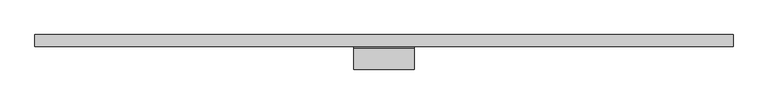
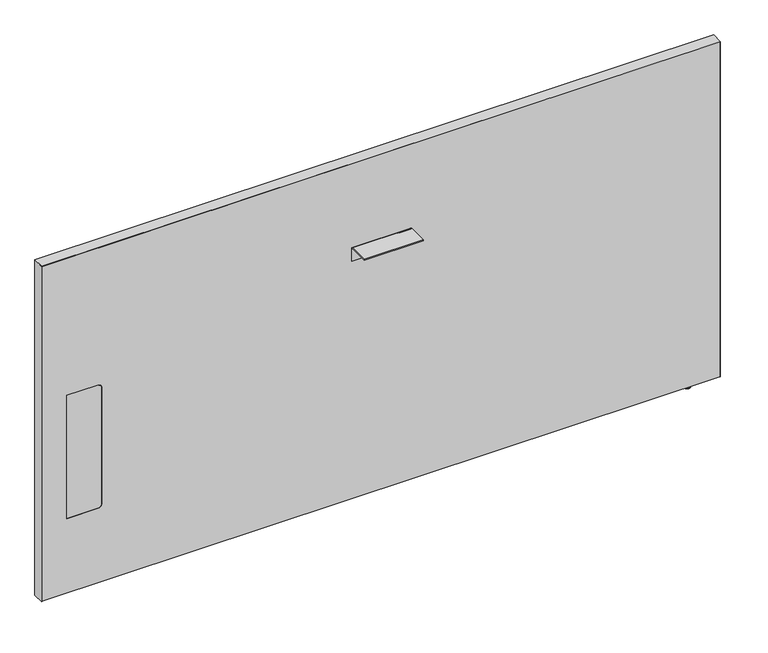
"""IFC4 building model written with IfcOpenShell, lengths in millimetres: furniture geometry, Steelcase - Answer Solution - Boundary Screen - Straight - Single Sided : 36H x 69W."""

from ifc_helpers import new_model, si_unit, point, frame, frame_2d, origin, place, context, project, spatial, polyline, circle_curve, ellipse_curve, trimmed, segment, composite_curve, outline, extrude, source, transform, mapped, element, save
from ifc_brep_helpers import plane_surface, cylinder_surface, revolved_surface, advanced_brep


def furniture_04f0128f(model_context):
    return source(origin(), model_context, "Body", "SolidModel", [
        extrude(outline(composite_curve([segment(polyline([(-86.8398151, 696.4680019), (-86.8398151, 698.5), (-34.9450855, 698.5)]), True, "CONTINUOUS"), segment(trimmed(circle_curve(frame_2d((-34.9450855, 693.2447477)), 5.2552523), [point((-34.9450855, 698.5))], [point((-29.6898332, 693.2447477))], False, "CARTESIAN"), True, "CONTINUOUS"), segment(polyline([(-29.6898332, 693.2447477), (-29.6898332, 660.4), (-31.7218162, 660.4), (-31.7218162, 693.0058743)]), True, "CONTINUOUS"), segment(trimmed(circle_curve(frame_2d((-35.1839438, 693.0058743)), 3.4621276), [point((-31.7218162, 693.0058743))], [point((-35.1839438, 696.4680019))], True, "CARTESIAN"), True, "CONTINUOUS"), segment(polyline([(-35.1839438, 696.4680019), (-86.8398151, 696.4680019)]), True, "CONTINUOUS")], self_intersect=False)), frame((153.6191407, 0.0, 0.0), z_axis=(1.0, 0.0, 0.0), x_axis=(0.0, 1.0, 0.0)), (0.0, 0.0, 1.0), 152.4000969),
        advanced_brep(
        [(1028.9286488, -23.7588726, 9.9059849), (1028.9286488, -5.9309607, 9.9059849), (1028.9286488, -14.8449166, 9.9059849), (1028.9286488, -23.7588726, 2.9673238), (1028.9286488, -5.9309607, 2.9673238), (1028.9286488, -22.7915354, 2.9673238), (1028.9286488, -6.8982978, 2.9673238), (1028.9286488, -22.7915354, 1.6569081), (1028.9286488, -6.8982978, 1.6569081), (1028.9286488, -21.1346274, 0.0), (1028.9286488, -8.5552059, 0.0), (1028.9286488, -14.8449166, 0.0)],
        [
            (0, 1, circle_curve(frame((1028.9286488, -14.8449166, 9.9059849), z_axis=(0.0, 0.0, 1.0), x_axis=(0.0, 1.0, 0.0)), 8.913956)),
            (1, 2),
            (2, 0),
            (1, 0, circle_curve(frame((1028.9286488, -14.8449166, 9.9059849), z_axis=(0.0, 0.0, 1.0), x_axis=(0.0, 1.0, 0.0)), 8.913956)),
            (3, 4, circle_curve(frame((1028.9286488, -14.8449166, 2.9673238), z_axis=(0.0, 0.0, 1.0), x_axis=(0.0, 1.0, 0.0)), 8.913956)),
            (4, 1),
            (0, 3),
            (4, 3, circle_curve(frame((1028.9286488, -14.8449166, 2.9673238), z_axis=(0.0, 0.0, 1.0), x_axis=(0.0, 1.0, 0.0)), 8.913956)),
            (5, 6, circle_curve(frame((1028.9286488, -14.8449166, 2.9673238), z_axis=(0.0, 0.0, 1.0), x_axis=(0.0, 1.0, 0.0)), 7.9466188)),
            (6, 4),
            (3, 5),
            (6, 5, circle_curve(frame((1028.9286488, -14.8449166, 2.9673238), z_axis=(0.0, 0.0, 1.0), x_axis=(0.0, 1.0, 0.0)), 7.9466188)),
            (7, 8, circle_curve(frame((1028.9286488, -14.8449166, 1.6569081), z_axis=(0.0, 0.0, 1.0), x_axis=(0.0, 1.0, 0.0)), 7.9466188)),
            (8, 6),
            (5, 7),
            (8, 7, circle_curve(frame((1028.9286488, -14.8449166, 1.6569081), z_axis=(0.0, 0.0, 1.0), x_axis=(0.0, 1.0, 0.0)), 7.9466188)),
            (9, 10, circle_curve(frame((1028.9286488, -14.8449166, 0.0), z_axis=(0.0, 0.0, 1.0), x_axis=(0.0, 1.0, 0.0)), 6.2897107)),
            (10, 8, circle_curve(frame((1028.9286488, -8.5552059, 1.6569081), z_axis=(1.0, 0.0, 0.0), x_axis=(0.0, 1.0, 0.0)), 1.6569081)),
            (7, 9, circle_curve(frame((1028.9286488, -21.1346274, 1.6569081), z_axis=(1.0, 0.0, 0.0), x_axis=(0.0, -1.0, 0.0)), 1.6569081)),
            (10, 9, circle_curve(frame((1028.9286488, -14.8449166, 0.0), z_axis=(0.0, 0.0, 1.0), x_axis=(0.0, 1.0, 0.0)), 6.2897107)),
            (11, 10),
            (9, 11),
        ],
        [
            plane_surface(frame((1028.9286488, -14.8449166, 9.9059849), z_axis=(0.0, 0.0, 1.0), x_axis=(0.0, 1.0, 0.0))),
            cylinder_surface(frame((1028.9286488, -14.8449166, 9.9059849), z_axis=(0.0, 0.0, -1.0), x_axis=(0.0, 1.0, 0.0)), 8.913956),
            plane_surface(frame((1028.9286488, -14.8449166, 2.9673238), z_axis=(0.0, 0.0, -1.0), x_axis=(0.0, 1.0, 0.0))),
            cylinder_surface(frame((1028.9286488, -14.8449166, 9.9059849), z_axis=(0.0, 0.0, -1.0), x_axis=(0.0, 1.0, 0.0)), 7.9466188),
            revolved_surface(trimmed(ellipse_curve(frame((1028.9286488, -8.5552059, 1.6569081), z_axis=(-1.0, 0.0, 0.0), x_axis=(0.0, 1.0, 0.0)), 1.6569081, 1.6569081), [point((1028.9286488, -6.8982978, 1.6569081))], [point((1028.9286488, -8.5552059, 0.0))], True, "CARTESIAN"), (1028.9286488, -14.8449166, 9.9059849), (0.0, 0.0, -1.0)),
            plane_surface(frame((1028.9286488, -14.8449166, 0.0), z_axis=(0.0, 0.0, -1.0), x_axis=(0.0, 1.0, 0.0))),
        ],
        [
            (0, [[1, 2, 3]]),
            (0, [[4, -3, -2]]),
            (1, [[5, 6, -1, 7]]),
            (1, [[8, -7, -4, -6]]),
            (2, [[9, 10, -5, 11]]),
            (2, [[12, -11, -8, -10]]),
            (3, [[13, 14, -9, 15]]),
            (3, [[16, -15, -12, -14]]),
            (4, [[17, 18, -13, 19]]),
            (4, [[20, -19, -16, -18]]),
            (5, [[21, -17, 22]]),
            (5, [[-22, -20, -21]]),
        ],
    ),
        advanced_brep(
        [(1105.0780168, 0.0, 924.342118), (1105.0780168, 0.0, 9.9059849), (-645.4902221, 0.0, 9.9059849), (-645.4902221, 0.0, 924.342118), (1105.0780168, -29.6898332, 924.342118), (-645.4902221, -29.6898332, 924.342118), (-645.4902221, -29.6898332, 9.9059849), (1105.0780168, -29.6898332, 9.9059849), (-501.1463873, -29.6898332, 549.6162029), (-490.9863873, -29.6898332, 539.4562029), (-490.9863873, -29.6898332, 223.9362137), (-501.1463873, -29.6898332, 213.7762137), (-580.800285, -29.6898332, 213.7762137), (-580.800285, -29.6898332, 549.6162029), (-580.800285, -29.0550397, 549.6162029), (-501.1463873, -29.0550397, 549.6162029), (-580.800285, -29.0550397, 213.7762137), (-501.1463873, -29.0550397, 213.7762137), (-490.9863873, -29.0550397, 223.9362137), (-490.9863873, -29.0550397, 539.4562029)],
        [
            (0, 1),
            (1, 2),
            (2, 3),
            (3, 0),
            (4, 5),
            (5, 6),
            (6, 7),
            (7, 4),
            (8, 9, circle_curve(frame((-501.1463873, -29.6898332, 539.4562029), z_axis=(0.0, 1.0, 0.0), x_axis=(0.0, 0.0, 1.0)), 10.16)),
            (9, 10),
            (10, 11, circle_curve(frame((-501.1463873, -29.6898332, 223.9362137), z_axis=(0.0, 1.0, 0.0), x_axis=(0.0, 0.0, 1.0)), 10.16)),
            (11, 12),
            (12, 13),
            (13, 8),
            (0, 4),
            (7, 1),
            (6, 2),
            (5, 3),
            (13, 14),
            (14, 15),
            (15, 8),
            (12, 16),
            (16, 14),
            (11, 17),
            (17, 16),
            (10, 18),
            (18, 17, circle_curve(frame((-501.1463873, -29.0550397, 223.9362137), z_axis=(0.0, 1.0, 0.0), x_axis=(0.0, 0.0, 1.0)), 10.16)),
            (9, 19),
            (19, 18),
            (15, 19, circle_curve(frame((-501.1463873, -29.0550397, 539.4562029), z_axis=(0.0, 1.0, 0.0), x_axis=(0.0, 0.0, 1.0)), 10.16)),
        ],
        [
            plane_surface(frame((1105.0780168, 0.0, 924.342118), z_axis=(0.0, 1.0, 0.0), x_axis=(0.0, 0.0, -1.0))),
            plane_surface(frame((1105.0780168, -29.6898332, 924.342118), z_axis=(0.0, -1.0, 0.0), x_axis=(0.0, 0.0, 1.0))),
            plane_surface(frame((1105.0780168, 0.0, 924.342118), z_axis=(1.0, 0.0, 0.0), x_axis=(0.0, -1.0, 0.0))),
            plane_surface(frame((1105.0780168, 0.0, 9.9059849), z_axis=(0.0, 0.0, -1.0), x_axis=(0.0, -1.0, 0.0))),
            plane_surface(frame((-645.4902221, 0.0, 9.9059849), z_axis=(-1.0, 0.0, 0.0), x_axis=(0.0, -1.0, 0.0))),
            plane_surface(frame((-645.4902221, 0.0, 924.342118), z_axis=(0.0, 0.0, 1.0), x_axis=(0.0, -1.0, 0.0))),
            plane_surface(frame((-501.1463873, 0.0, 549.6162029), z_axis=(0.0, 0.0, -1.0), x_axis=(0.0, -1.0, 0.0))),
            plane_surface(frame((-580.800285, 0.0, 549.6162029), z_axis=(1.0, 0.0, 0.0), x_axis=(0.0, -1.0, 0.0))),
            plane_surface(frame((-580.800285, 0.0, 213.7762137), z_axis=(0.0, 0.0, 1.0), x_axis=(0.0, -1.0, 0.0))),
            revolved_surface(polyline([(-501.1463873, -29.6898332, 234.0962137), (-501.1463873, -29.0550397, 234.0962137)]), (-501.1463873, -29.6898332, 223.9362137), (0.0, -1.0, 0.0)),
            plane_surface(frame((-490.9863873, 0.0, 223.9362137), z_axis=(-1.0, 0.0, 0.0), x_axis=(0.0, -1.0, 0.0))),
            revolved_surface(polyline([(-501.1463873, -29.6898332, 549.6162029), (-501.1463873, -29.0550397, 549.6162029)]), (-501.1463873, -29.6898332, 539.4562029), (0.0, -1.0, 0.0)),
            plane_surface(frame((-490.9863873, -29.0550397, 629.172953), z_axis=(0.0, -1.0, 0.0), x_axis=(0.0, 0.0, 1.0))),
        ],
        [
            (0, [[1, 2, 3, 4]]),
            (1, [[5, 6, 7, 8], [9, 10, 11, 12, 13, 14]]),
            (2, [[-1, 15, -8, 16]]),
            (3, [[-2, -16, -7, 17]]),
            (4, [[-3, -17, -6, 18]]),
            (5, [[-4, -18, -5, -15]]),
            (6, [[-14, 19, 20, 21]]),
            (7, [[-13, 22, 23, -19]]),
            (8, [[-12, 24, 25, -22]]),
            (9, [[-11, 26, 27, -24]]),
            (10, [[-10, 28, 29, -26]]),
            (11, [[-9, -21, 30, -28]]),
            (12, [[-20, -23, -25, -27, -29, -30]]),
        ],
    ),
        extrude(outline(composite_curve([segment(polyline([(549.6162029, -501.1463873), (549.6162029, -580.800285), (213.7762137, -580.800285), (213.7762137, -501.1463873)]), True, "CONTINUOUS"), segment(trimmed(circle_curve(frame_2d((223.9362137, -501.1463873)), 10.16), [point((213.7762137, -501.1463873))], [point((223.9362137, -490.9863873))], False, "CARTESIAN"), True, "CONTINUOUS"), segment(polyline([(223.9362137, -490.9863873), (539.4562029, -490.9863873)]), True, "CONTINUOUS"), segment(trimmed(circle_curve(frame_2d((539.4562029, -501.1463873)), 10.16), [point((539.4562029, -490.9863873))], [point((549.6162029, -501.1463873))], False, "CARTESIAN"), True, "CONTINUOUS")], self_intersect=False)), frame((0.0, -29.6898332, 0.0), z_axis=(0.0, 1.0, 0.0), x_axis=(0.0, 0.0, 1.0)), (0.0, 0.0, 1.0), 0.6347935),
        extrude(outline(polyline([(925.322, 1106.1191891), (925.322, -646.4808109), (9.9059849, -646.4808109), (9.9059849, -645.4902221), (924.342118, -645.4902221), (924.342118, 1105.0780168), (9.9059849, 1105.0780168), (9.9059849, 1106.1191891), (925.322, 1106.1191891)])), frame((0.0, -29.6898332, 0.0), z_axis=(0.0, 1.0, 0.0), x_axis=(0.0, 0.0, 1.0)), (0.0, 0.0, 1.0), 29.6898332),
    ])


if __name__ == "__main__":
    model = new_model("IFC4")
    model_context = context("Model", 3, world=origin())
    ifc_project = project(units=[si_unit("LENGTHUNIT", "METRE", prefix="MILLI")], contexts=[model_context])
    site = spatial("IfcSite", under=ifc_project)
    building = spatial("IfcBuilding", under=site)
    placement = place(None, origin())
    furniture_shape = furniture_04f0128f(model_context)
    element("IfcFurniture", 1, ObjectType="Steelcase - Answer Solution - Boundary Screen - Straight - Single Sided : 36H x 69W", at=placement, inside=building, context=model_context, shape_type="MappedRepresentation", body=[
        mapped(furniture_shape, transform((0.0, 0.0, 0.0), x_axis=(1.0, 0.0, 0.0), y_axis=(0.0, 1.0, 0.0), z_axis=(0.0, 0.0, 1.0))),
    ])
    save(model, "model.ifc")
